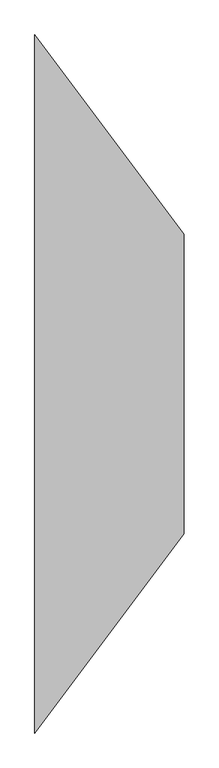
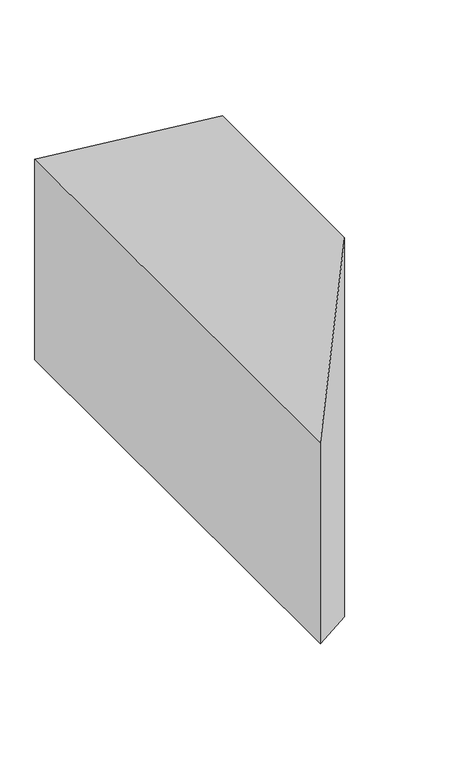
"""IFC4 building model written with IfcOpenShell, lengths in millimetres: duct fitting geometry, ADSK_ПереходникВоздуховодов_Прямоугольный1 : Стандартное 2."""

from ifc_helpers import new_model, si_unit, origin, place, context, project, spatial, faceted_brep, source, transform, mapped, element, save


def duct_fitting_19dbb964(model_context):
    return source(origin(), model_context, "Body", "Brep", [
        faceted_brep([(300.0, -300.0, 567.5), (300.0, -300.0, -567.5), (300.0, 300.0, -567.5), (300.0, 300.0, 567.5), (0.0, -700.0, 300.0), (0.0, 700.0, 300.0), (0.0, 700.0, -300.0), (0.0, -700.0, -300.0)], [[[0, 1, 2, 3]], [[4, 5, 6, 7]], [[4, 7, 1, 0]], [[7, 6, 2, 1]], [[6, 5, 3, 2]], [[5, 4, 0, 3]]]),
    ])


if __name__ == "__main__":
    model = new_model("IFC4")
    model_context = context("Model", 3, world=origin())
    ifc_project = project(units=[si_unit("LENGTHUNIT", "METRE", prefix="MILLI")], contexts=[model_context])
    site = spatial("IfcSite", under=ifc_project)
    building = spatial("IfcBuilding", under=site)
    placement = place(None, origin())
    duct_fitting_shape = duct_fitting_19dbb964(model_context)
    element("IfcDuctFitting", 1, ObjectType="ADSK_ПереходникВоздуховодов_Прямоугольный1 : Стандартное 2", at=placement, inside=building, context=model_context, shape_type="MappedRepresentation", body=[
        mapped(duct_fitting_shape, transform((0.0, 0.0, 0.0), x_axis=(1.0, 0.0, 0.0), y_axis=(0.0, 1.0, 0.0), z_axis=(0.0, 0.0, 1.0))),
    ])
    save(model, "model.ifc")
